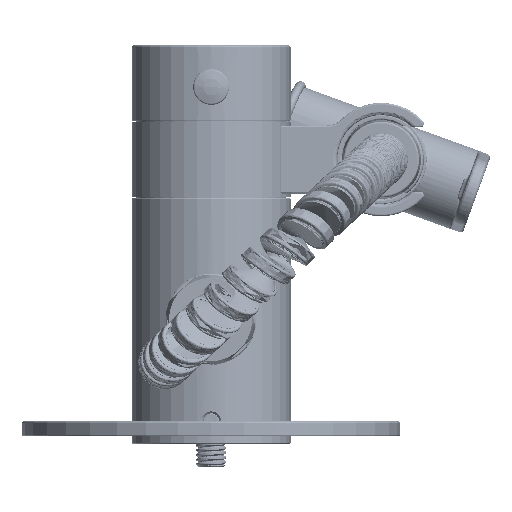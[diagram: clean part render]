
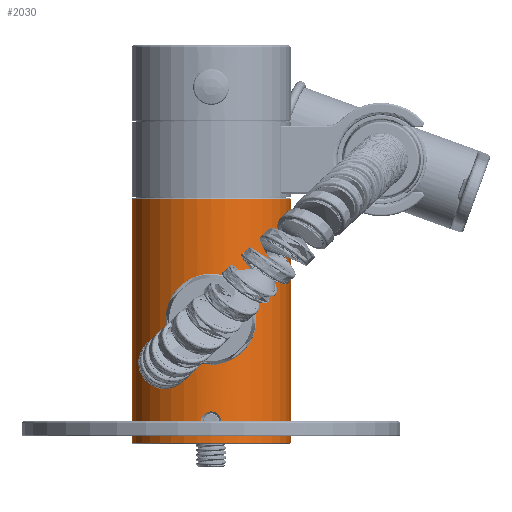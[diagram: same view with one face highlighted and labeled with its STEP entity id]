
A CAD part, front view. The second image highlights one B-rep face of the part: STEP entity #2030.
In plain terms, the highlighted cylindrical face has radius 21 mm (diameter 42 mm), a partial arc.
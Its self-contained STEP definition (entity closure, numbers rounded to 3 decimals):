
#70=CARTESIAN_POINT('',(0.,22.5,-21.));
#71=CARTESIAN_POINT('',(0.248,22.5,-21.));
#72=CARTESIAN_POINT('',(0.743,22.543,-20.992));
#73=CARTESIAN_POINT('',(1.527,22.774,-20.949));
#74=CARTESIAN_POINT('',(2.217,23.141,-20.886));
#75=CARTESIAN_POINT('',(2.817,23.626,-20.813));
#76=CARTESIAN_POINT('',(3.31,24.211,-20.739));
#77=CARTESIAN_POINT('',(3.696,24.898,-20.673));
#78=CARTESIAN_POINT('',(3.948,25.699,-20.626));
#79=CARTESIAN_POINT('',(4.024,26.483,-20.611));
#80=CARTESIAN_POINT('',(3.957,27.246,-20.624));
#81=CARTESIAN_POINT('',(3.717,28.054,-20.669));
#82=CARTESIAN_POINT('',(3.337,28.75,-20.735));
#83=CARTESIAN_POINT('',(2.843,29.35,-20.809));
#84=CARTESIAN_POINT('',(2.24,29.844,-20.884));
#85=CARTESIAN_POINT('',(1.545,30.22,-20.948));
#86=CARTESIAN_POINT('',(0.752,30.456,-20.991));
#87=CARTESIAN_POINT('',(0.251,30.5,-21.));
#88=CARTESIAN_POINT('',(0.,30.5,-21.));
#90=CARTESIAN_POINT('',(0.,30.5,-21.));
#91=CARTESIAN_POINT('',(-0.248,30.5,-21.));
#92=CARTESIAN_POINT('',(-0.743,30.457,-20.992));
#93=CARTESIAN_POINT('',(-1.527,30.226,-20.949));
#94=CARTESIAN_POINT('',(-2.217,29.859,-20.886));
#95=CARTESIAN_POINT('',(-2.817,29.374,-20.813));
#96=CARTESIAN_POINT('',(-3.31,28.789,-20.739));
#97=CARTESIAN_POINT('',(-3.696,28.102,-20.673));
#98=CARTESIAN_POINT('',(-3.948,27.301,-20.626));
#99=CARTESIAN_POINT('',(-4.024,26.517,-20.611));
#100=CARTESIAN_POINT('',(-3.957,25.754,-20.624));
#101=CARTESIAN_POINT('',(-3.717,24.946,-20.669));
#102=CARTESIAN_POINT('',(-3.337,24.25,-20.735));
#103=CARTESIAN_POINT('',(-2.843,23.65,-20.809));
#104=CARTESIAN_POINT('',(-2.24,23.156,-20.884));
#105=CARTESIAN_POINT('',(-1.545,22.78,-20.948));
#106=CARTESIAN_POINT('',(-0.752,22.544,
-20.991));
#107=CARTESIAN_POINT('',(-0.251,22.5,-21.));
#108=CARTESIAN_POINT('',(0.,22.5,-21.));
#110=CARTESIAN_POINT('',(0.,64.7,0.));
#111=DIRECTION('',(0.,1.,0.));
#112=DIRECTION('',(1.,0.,0.));
#113=AXIS2_PLACEMENT_3D('',#110,#111,#112);
#115=DIRECTION('',(0.,-1.,0.));
#116=VECTOR('',#115,64.4);
#117=CARTESIAN_POINT('',(-21.,64.7,0.));
#118=LINE('',#117,#116);
#119=CARTESIAN_POINT('',(0.,0.3,0.));
#120=DIRECTION('',(0.,1.,0.));
#121=DIRECTION('',(1.,0.,0.));
#122=AXIS2_PLACEMENT_3D('',#119,#120,#121);
#124=DIRECTION('',(0.,-1.,0.));
#125=VECTOR('',#124,64.4);
#126=CARTESIAN_POINT('',(21.,64.7,0.));
#127=LINE('',#126,#125);
#128=CARTESIAN_POINT('',(0.,8.6,-21.));
#129=CARTESIAN_POINT('',(-0.216,8.6,
-21.));
#130=CARTESIAN_POINT('',(-0.648,8.549,
-20.993));
#131=CARTESIAN_POINT('',(-1.264,8.318,-20.965));
#132=CARTESIAN_POINT('',(-1.799,7.952,-20.925));
#133=CARTESIAN_POINT('',(-2.227,7.472,-20.883));
#134=CARTESIAN_POINT('',(-2.521,6.913,-20.849));
#135=CARTESIAN_POINT('',(-2.67,6.306,-20.83));
#136=CARTESIAN_POINT('',(-2.669,5.685,-20.83));
#137=CARTESIAN_POINT('',(-2.518,5.079,-20.849));
#138=CARTESIAN_POINT('',(-2.221,4.52,-20.883));
#139=CARTESIAN_POINT('',(-1.793,4.043,-20.925));
#140=CARTESIAN_POINT('',(-1.255,3.677,-20.965));
#141=CARTESIAN_POINT('',(-0.636,3.449,
-20.994));
#142=CARTESIAN_POINT('',(-0.213,3.4,
-21.));
#143=CARTESIAN_POINT('',(0.,3.4,-21.));
#145=CARTESIAN_POINT('',(0.,3.4,-21.));
#146=CARTESIAN_POINT('',(0.216,3.4,-21.));
#147=CARTESIAN_POINT('',(0.648,3.451,-20.993));
#148=CARTESIAN_POINT('',(1.264,3.682,-20.965));
#149=CARTESIAN_POINT('',(1.799,4.048,-20.925));
#150=CARTESIAN_POINT('',(2.227,4.528,-20.883));
#151=CARTESIAN_POINT('',(2.521,5.087,-20.849));
#152=CARTESIAN_POINT('',(2.67,5.693,-20.83));
#153=CARTESIAN_POINT('',(2.669,6.315,-20.83));
#154=CARTESIAN_POINT('',(2.518,6.921,-20.849));
#155=CARTESIAN_POINT('',(2.221,7.48,-20.883));
#156=CARTESIAN_POINT('',(1.793,7.957,-20.925));
#157=CARTESIAN_POINT('',(1.255,8.323,-20.965));
#158=CARTESIAN_POINT('',(0.636,8.551,-20.994));
#159=CARTESIAN_POINT('',(0.213,8.6,-21.));
#160=CARTESIAN_POINT('',(0.,8.6,-21.));
#1671=CARTESIAN_POINT('',(21.,0.3,0.));
#1672=CARTESIAN_POINT('',(-21.,0.3,0.));
#1673=VERTEX_POINT('',#1671);
#1674=VERTEX_POINT('',#1672);
#1683=CARTESIAN_POINT('',(21.,64.7,0.));
#1684=CARTESIAN_POINT('',(-21.,64.7,0.));
#1685=VERTEX_POINT('',#1683);
#1686=VERTEX_POINT('',#1684);
#1687=VERTEX_POINT('',#70);
#1688=VERTEX_POINT('',#88);
#1939=VERTEX_POINT('',#128);
#1940=VERTEX_POINT('',#143);
#2004=CARTESIAN_POINT('',(0.,68.25,0.));
#2005=DIRECTION('',(0.,-1.,0.));
#2006=DIRECTION('',(-1.,0.,0.));
#2007=AXIS2_PLACEMENT_3D('',#2004,#2005,#2006);
#2008=CYLINDRICAL_SURFACE('',#2007,21.);
#2010=ORIENTED_EDGE('',*,*,#2009,.T.);
#2012=ORIENTED_EDGE('',*,*,#2011,.T.);
#2013=ORIENTED_EDGE('',*,*,#1994,.F.);
#2015=ORIENTED_EDGE('',*,*,#2014,.F.);
#2016=EDGE_LOOP('',(#2010,#2012,#2013,#2015));
#2017=FACE_OUTER_BOUND('',#2016,.F.);
#2019=ORIENTED_EDGE('',*,*,#2018,.F.);
#2021=ORIENTED_EDGE('',*,*,#2020,.F.);
#2022=EDGE_LOOP('',(#2019,#2021));
#2023=FACE_BOUND('',#2022,.F.);
#2025=ORIENTED_EDGE('',*,*,#2024,.F.);
#2027=ORIENTED_EDGE('',*,*,#2026,.F.);
#2028=EDGE_LOOP('',(#2025,#2027));
#2029=FACE_BOUND('',#2028,.F.);
#89=B_SPLINE_CURVE_WITH_KNOTS('',3,(#70,#71,#72,#73,#74,#75,#76,#77,#78,#79,#80,
#81,#82,#83,#84,#85,#86,#87,#88),.UNSPECIFIED.,.F.,.F.,(4,1,1,1,1,1,1,1,1,1,1,1,
1,1,1,1,4),(0.,0.063,0.125,0.188,0.25,0.313,0.375,0.438,
0.5,0.563,0.625,0.688,0.75,0.813,0.875,0.938,1.),
.UNSPECIFIED.);
#109=B_SPLINE_CURVE_WITH_KNOTS('',3,(#90,#91,#92,#93,#94,#95,#96,#97,#98,#99,
#100,#101,#102,#103,#104,#105,#106,#107,#108),.UNSPECIFIED.,.F.,.F.,(4,1,1,1,1,
1,1,1,1,1,1,1,1,1,1,1,4),(0.,0.063,0.125,0.188,0.25,0.313,0.375,
0.438,0.5,0.563,0.625,0.688,0.75,0.813,0.875,0.938,1.),
.UNSPECIFIED.);
#114=CIRCLE('',#113,21.);
#123=CIRCLE('',#122,21.);
#144=B_SPLINE_CURVE_WITH_KNOTS('',3,(#128,#129,#130,#131,#132,#133,#134,#135,
#136,#137,#138,#139,#140,#141,#142,#143),.UNSPECIFIED.,.F.,.F.,(4,1,1,1,1,1,1,1,
1,1,1,1,1,4),(0.,0.077,0.154,0.231,
0.308,0.385,0.462,0.538,
0.615,0.692,0.769,0.846,
0.923,1.),.UNSPECIFIED.);
#161=B_SPLINE_CURVE_WITH_KNOTS('',3,(#145,#146,#147,#148,#149,#150,#151,#152,
#153,#154,#155,#156,#157,#158,#159,#160),.UNSPECIFIED.,.F.,.F.,(4,1,1,1,1,1,1,1,
1,1,1,1,1,4),(0.,0.077,0.154,0.231,
0.308,0.385,0.462,0.538,
0.615,0.692,0.769,0.846,
0.923,1.),.UNSPECIFIED.);
#1994=EDGE_CURVE('',#1673,#1674,#123,.T.);
#2009=EDGE_CURVE('',#1685,#1686,#114,.T.);
#2011=EDGE_CURVE('',#1686,#1674,#118,.T.);
#2014=EDGE_CURVE('',#1685,#1673,#127,.T.);
#2018=EDGE_CURVE('',#1687,#1688,#89,.T.);
#2020=EDGE_CURVE('',#1688,#1687,#109,.T.);
#2024=EDGE_CURVE('',#1939,#1940,#144,.T.);
#2026=EDGE_CURVE('',#1940,#1939,#161,.T.);
#2030=ADVANCED_FACE('',(#2017,#2023,#2029),#2008,.T.);
